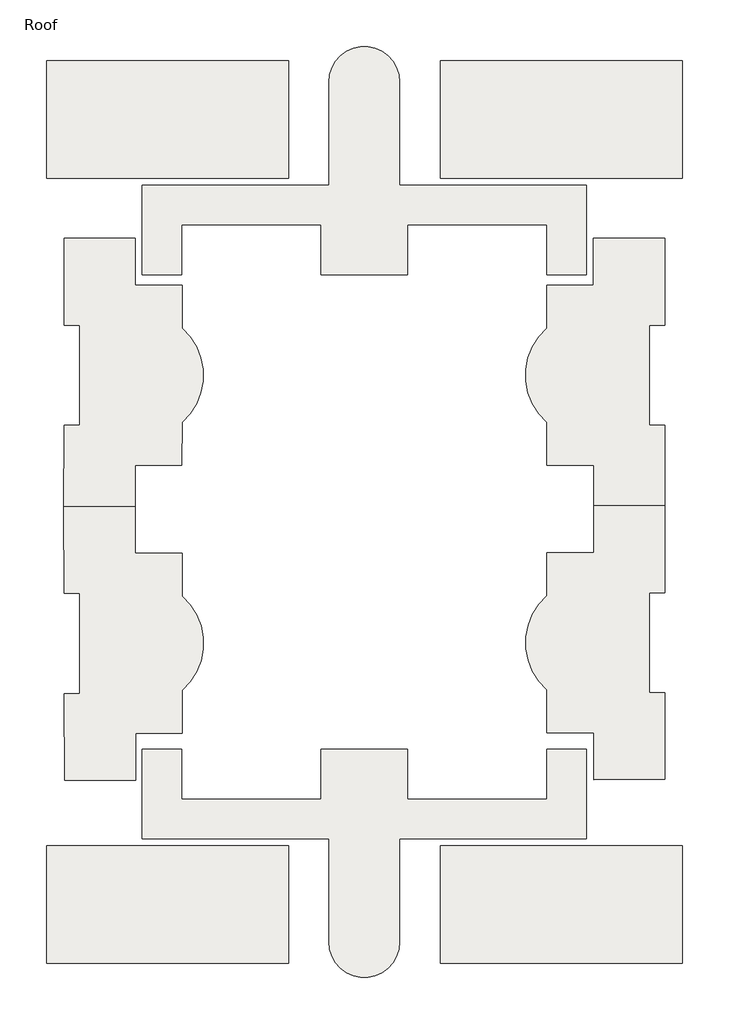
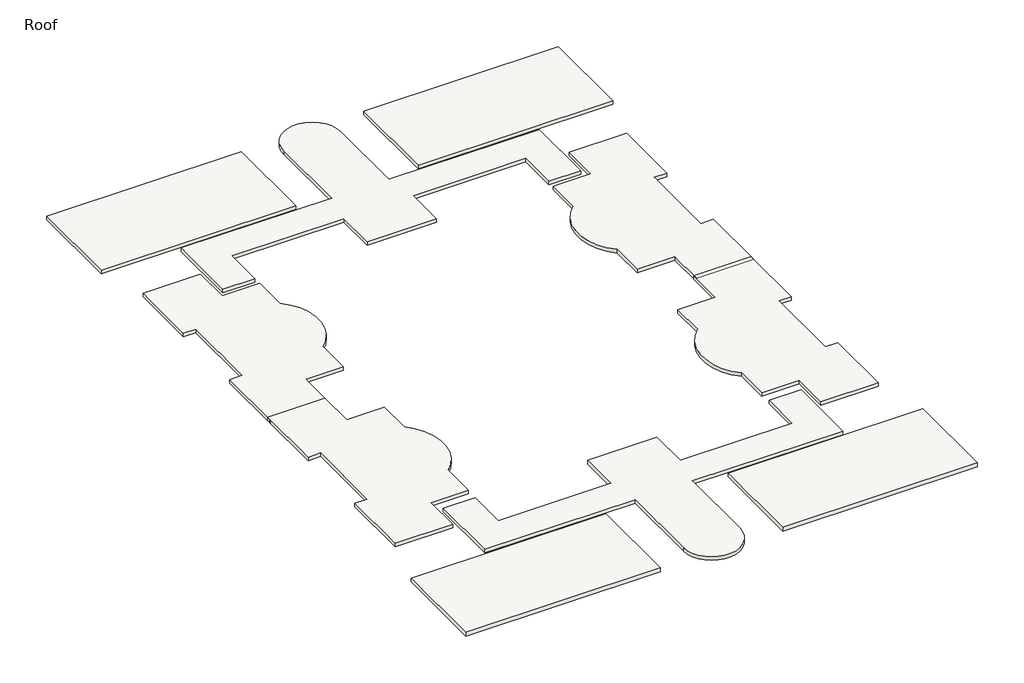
# One storey: 10 roofs.
"""IFC4 building model written with IfcOpenShell, lengths in millimetres."""

from ifc_helpers import new_model, si_unit, point, frame, frame_2d, origin, place, context, project, spatial, polyline, circle_curve, trimmed, segment, composite_curve, outline, extrude, element, save

model = new_model("IFC4")

# Units and contexts
model_context = context("Model", 3, world=origin())
ifc_project = project(units=[si_unit("LENGTHUNIT", "METRE", prefix="MILLI")], contexts=[model_context])

# Site, building, storey
site = spatial("IfcSite", under=ifc_project)
building = spatial("IfcBuilding", under=site)
storey = spatial("IfcBuildingStorey", under=building, Name="Roof", Elevation=12192.0)

# Roofs
placement = place(None, origin())
element("IfcRoof", 1, ObjectType="Generic - 9\"", at=placement, inside=storey, context=model_context, shape_type="SweptSolid", body=[
    extrude(outline(polyline([(-11217.2464563, 10270.0191867), (622.3285437, 10270.0191867), (622.3285437, 4526.4441867), (-11217.2464563, 4526.4441867), (-11217.2464563, 10270.0191867)])), frame((0.0, 0.0, 12192.0), z_axis=(0.0, 0.0, 1.0), x_axis=(1.0, 0.0, 0.0)), (0.0, 0.0, 1.0), 228.6),
])
element("IfcRoof", 2, ObjectType="Generic - 9\"", at=placement, inside=storey, context=model_context, shape_type="SweptSolid", body=[
    extrude(outline(composite_curve([segment(polyline([(-25807.9589563, -197.9558133), (-25807.9589563, 4174.0191867), (-16676.6589563, 4174.0191867), (-16676.6589563, 9227.0316867)]), True, "CONTINUOUS"), segment(trimmed(circle_curve(frame_2d((-14941.5214563, 9227.0316867)), 1735.1375), [point((-16676.6589563, 9227.0316867))], [point((-13206.3839563, 9227.0316867))], False, "CARTESIAN"), True, "CONTINUOUS"), segment(polyline([(-13206.3839563, 9227.0316867), (-13206.3839563, 4174.0191867), (-4062.3839563, 4174.0191867), (-4062.3839563, -197.9558133), (-5995.9589563, -197.9558133), (-5995.9589563, 2240.4441867), (-12825.3839563, 2240.4441867), (-12825.3839563, -197.9558133), (-17044.9589563, -197.9558133), (-17044.9589563, 2240.4441867), (-23874.3839563, 2240.4441867), (-23874.3839563, -197.9558133), (-25807.9589563, -197.9558133)]), True, "CONTINUOUS")], self_intersect=False)), frame((0.0, 0.0, 12192.0), z_axis=(0.0, 0.0, 1.0), x_axis=(1.0, 0.0, 0.0)), (0.0, 0.0, 1.0), 228.6),
])
element("IfcRoof", 3, ObjectType="Generic - 9\"", at=placement, inside=storey, context=model_context, shape_type="SweptSolid", body=[
    extrude(outline(polyline([(-30492.6714563, 10270.0191867), (-18653.0964563, 10270.0191867), (-18653.0964563, 4526.4441867), (-30492.6714563, 4526.4441867), (-30492.6714563, 10270.0191867)])), frame((0.0, 0.0, 12192.0), z_axis=(0.0, 0.0, 1.0), x_axis=(1.0, 0.0, 0.0)), (0.0, 0.0, 1.0), 228.6),
])
element("IfcRoof", 4, ObjectType="Generic - 9\"", at=placement, inside=storey, context=model_context, shape_type="SweptSolid", body=[
    extrude(outline(composite_curve([segment(polyline([(-25807.9589563, -27782.3558133), (-25807.9589563, -23410.3808133), (-23874.3839563, -23410.3808133), (-23874.3839563, -25848.7808133), (-17044.9589563, -25848.7808133), (-17044.9589563, -23410.3808133), (-12825.3839563, -23410.3808133), (-12825.3839563, -25848.7808133), (-5995.9589563, -25848.7808133), (-5995.9589563, -23410.3808133), (-4062.3839563, -23410.3808133), (-4062.3839563, -27782.3558133), (-13206.3839563, -27782.3558133), (-13206.3839563, -32835.3683133)]), True, "CONTINUOUS"), segment(trimmed(circle_curve(frame_2d((-14941.5214563, -32835.3683133)), 1735.1375), [point((-13206.3839563, -32835.3683133))], [point((-16676.6589563, -32835.3683133))], False, "CARTESIAN"), True, "CONTINUOUS"), segment(polyline([(-16676.6589563, -32835.3683133), (-16676.6589563, -27782.3558133), (-25807.9589563, -27782.3558133)]), True, "CONTINUOUS")], self_intersect=False)), frame((0.0, 0.0, 12192.0), z_axis=(0.0, 0.0, 1.0), x_axis=(1.0, 0.0, 0.0)), (0.0, 0.0, 1.0), 228.6),
])
element("IfcRoof", 5, ObjectType="Generic - 9\"", at=placement, inside=storey, context=model_context, shape_type="SweptSolid", body=[
    extrude(outline(polyline([(622.3285437, -33878.3558133), (-11217.2464563, -33878.3558133), (-11217.2464563, -28134.7808133), (622.3285437, -28134.7808133), (622.3285437, -33878.3558133)])), frame((0.0, 0.0, 12192.0), z_axis=(0.0, 0.0, 1.0), x_axis=(1.0, 0.0, 0.0)), (0.0, 0.0, 1.0), 228.6),
])
element("IfcRoof", 6, ObjectType="Generic - 9\"", at=placement, inside=storey, context=model_context, shape_type="SweptSolid", body=[
    extrude(outline(polyline([(-18653.0964563, -33878.3558133), (-30492.6714563, -33878.3558133), (-30492.6714563, -28134.7808133), (-18653.0964563, -28134.7808133), (-18653.0964563, -33878.3558133)])), frame((0.0, 0.0, 12192.0), z_axis=(0.0, 0.0, 1.0), x_axis=(1.0, 0.0, 0.0)), (0.0, 0.0, 1.0), 228.6),
])
element("IfcRoof", 7, ObjectType="Generic - 9\"", at=placement, inside=storey, context=model_context, shape_type="SweptSolid", body=[
    extrude(outline(composite_curve([segment(polyline([(-3723.897017, 1584.0893338), (-240.9230199, 1586.7324761), (-237.701615, -2658.2413016), (-999.7013956, -2658.8195643), (-995.9836486, -7557.8431536), (-233.983868, -7557.264891), (-230.7624631, -11802.2386686), (-3713.7364602, -11804.8818109), (-3715.4712482, -9518.8824691), (-6001.47059, -9520.6172571), (-6003.0681598, -7415.4357365)]), True, "CONTINUOUS"), segment(trimmed(circle_curve(frame_2d((-3991.621775, -5110.6032635)), 3059.1125), [point((-6003.0681598, -7415.4357365))], [point((-6006.564001, -2808.8263164))], False, "CARTESIAN"), True, "CONTINUOUS"), segment(polyline([(-6006.564001, -2808.8263164), (-6008.1615708, -703.6447959), (-3722.162229, -701.9100079), (-3723.897017, 1584.0893338)]), True, "CONTINUOUS")], self_intersect=False)), frame((0.0, 0.0, 12192.0), z_axis=(0.0, 0.0, 1.0), x_axis=(1.0, 0.0, 0.0)), (0.0, 0.0, 1.0), 228.6),
])
element("IfcRoof", 8, ObjectType="Generic - 9\"", at=placement, inside=storey, context=model_context, shape_type="SweptSolid", body=[
    extrude(outline(composite_curve([segment(polyline([(-29629.4198927, 1586.7324761), (-26146.4458956, 1584.0893338), (-26148.1806836, -701.9100079), (-23862.1813418, -703.6447959), (-23863.7789117, -2808.8263164)]), True, "CONTINUOUS"), segment(trimmed(circle_curve(frame_2d((-25878.7211376, -5110.6032635)), 3059.1125), [point((-23863.7789117, -2808.8263164))], [point((-23867.2747528, -7415.4357365))], False, "CARTESIAN"), True, "CONTINUOUS"), segment(polyline([(-23867.2747528, -7415.4357365), (-23868.8723227, -9520.6172571), (-26154.8716644, -9518.8824691), (-26156.6064524, -11804.8818109), (-29639.5804495, -11802.2386686), (-29636.3590446, -7557.264891), (-28874.359264, -7557.8431536), (-28870.641517, -2658.8195643), (-29632.6412976, -2658.2413016), (-29629.4198927, 1586.7324761)]), True, "CONTINUOUS")], self_intersect=False)), frame((0.0, 0.0, 12192.0), z_axis=(0.0, 0.0, 1.0), x_axis=(1.0, 0.0, 0.0)), (0.0, 0.0, 1.0), 228.6),
])
element("IfcRoof", 9, ObjectType="Generic - 9\"", at=placement, inside=storey, context=model_context, shape_type="SweptSolid", body=[
    extrude(outline(composite_curve([segment(polyline([(-220.8330845, -24886.5771888), (-3703.8070816, -24889.220331), (-3705.5418696, -22603.2209892), (-5991.5412113, -22604.9557772), (-5993.1387811, -20499.7742566)]), True, "CONTINUOUS"), segment(trimmed(circle_curve(frame_2d((-3981.6923964, -18194.9417836)), 3059.1125), [point((-5993.1387811, -20499.7742566))], [point((-5996.6346223, -15893.1648365))], False, "CARTESIAN"), True, "CONTINUOUS"), segment(polyline([(-5996.6346223, -15893.1648365), (-5998.2321921, -13787.983316), (-3712.2328504, -13786.248528), (-3713.9676383, -11500.2491863), (-230.9936413, -11497.606044), (-227.7722364, -15742.5798217), (-989.772017, -15743.1580844), (-986.05427, -20642.1816737), (-224.0544894, -20641.6034111), (-220.8330845, -24886.5771888)]), True, "CONTINUOUS")], self_intersect=False)), frame((0.0, 0.0, 12192.0), z_axis=(0.0, 0.0, 1.0), x_axis=(1.0, 0.0, 0.0)), (0.0, 0.0, 1.0), 228.6),
])
element("IfcRoof", 10, ObjectType="Generic - 9\"", at=placement, inside=storey, context=model_context, shape_type="SweptSolid", body=[
    extrude(outline(composite_curve([segment(polyline([(-26126.3301343, -24923.2521392), (-29609.2961082, -24931.1815598), (-29618.9603154, -20686.2175607), (-28856.9622901, -20684.4827741), (-28868.1155225, -15785.4704699), (-29630.1135478, -15787.2052566), (-29639.777755, -11542.2412575), (-26156.8117812, -11534.3118369), (-26151.6074213, -13820.3059127), (-23865.6133455, -13815.1015528), (-23860.8206397, -15920.2782239)]), True, "CONTINUOUS"), segment(trimmed(circle_curve(frame_2d((-25868.7665498, -18228.1609137)), 3059.1125), [point((-23860.8206397, -15920.2782239))], [point((-23850.3331242, -20526.8770324))], False, "CARTESIAN"), True, "CONTINUOUS"), segment(polyline([(-23850.3331242, -20526.8770324), (-23845.5404184, -22632.0537035), (-26131.5344942, -22637.2580634), (-26126.3301343, -24923.2521392)]), True, "CONTINUOUS")], self_intersect=False)), frame((0.0, 0.0, 12192.0), z_axis=(0.0, 0.0, 1.0), x_axis=(1.0, 0.0, 0.0)), (0.0, 0.0, 1.0), 228.6),
])

save(model, "model.ifc")
